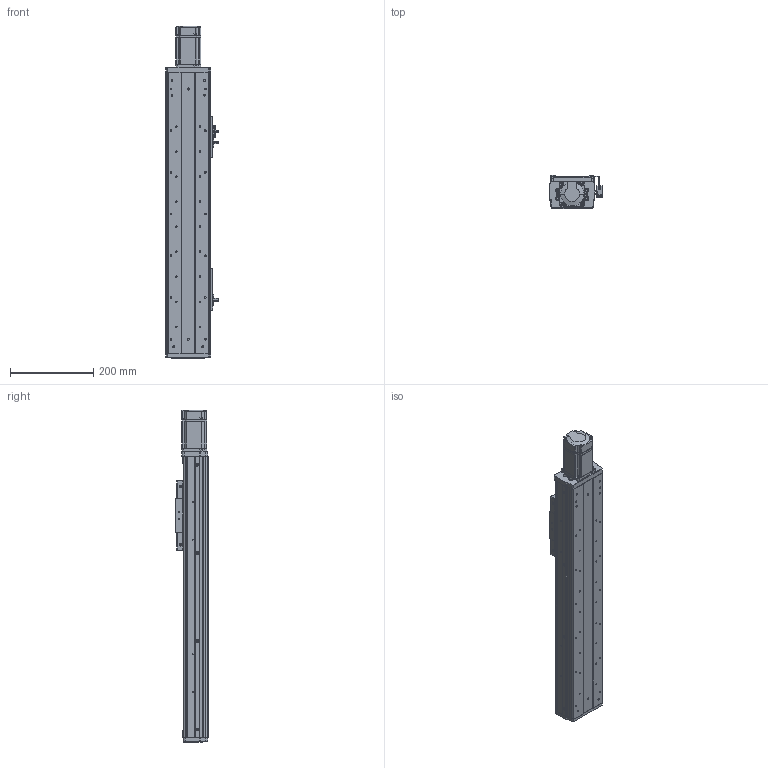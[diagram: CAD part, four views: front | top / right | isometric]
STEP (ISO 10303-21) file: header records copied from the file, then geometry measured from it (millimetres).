
FILE_DESCRIPTION (( 'STEP AP203' ), '1' );
FILE_NAME ('RY100FS-300-MK(15双轨).SLDASM_400.step', '2021-03-02T05:50:43', ( '盈信电脑' ), ( '东莞市道滘镇水果街19号' ), 'SwSTEP 2.0', 'SolidWorks 2012', '' );
FILE_SCHEMA (( 'CONFIG_CONTROL_DESIGN' ));
Length unit declared in the file: millimetre
Products named in the file (20): RY100FS-300-MK(15邧寢).SLDASM_400; 滅袉蝶14-24; RY100FS-15絳寢萇儂假蚾啣(200W PCD70 M4); 滅袉蝶14-35; RY100FS-双轨螺母座(16丝杆）; RY100F-詩湍揤踡輸; 覜茼ん672; RY80俋离覜茼え; 672嫖萇羲壽假蚾釱; RY100F-詩湍揤踡謫; 1; 侂狟200W萇儂; RY100F-綴裔啣; RY100F-詩湍幗謫粣; 棠沺沭; RY100F-滅鳥裔啣; RY100FS-300-MK15絳寢倰第奻裔啣_400; RY100FS-双轨铝滑块(上板）; RY100FS-300-MK15絳寢倰第菁釱_400; RY100FS-300-MK15邧寢祥凄詩湍_400
Assembly tree (27 placements, depth 3):
  RY100FS-300-MK(15邧寢).SLDASM_400
    RY100FS-300-MK15絳寢倰第菁釱_400
    RY100FS-300-MK15絳寢倰第奻裔啣_400  x2
    RY100FS-300-MK15邧寢祥凄詩湍_400
    RY100FS-双轨铝滑块(上板）
    RY100F-滅鳥裔啣
    棠沺沭  x2
    RY100F-詩湍幗謫粣
    RY100F-詩湍揤踡謫  x2
    侂狟200W萇儂
      1
    RY100F-綴裔啣
    672嫖萇羲壽假蚾釱  x2
    RY80俋离覜茼え  x2
    覜茼ん672  x3
    RY100F-詩湍揤踡輸  x2
    RY100FS-15絳寢萇儂假蚾啣(200W PCD70 M4)
    RY100FS-双轨螺母座(16丝杆）
    滅袉蝶14-24
    滅袉蝶14-35
Bounding box: 126.2 x 78.5 x 796 mm (x, y, z)
Volume: 1878792.8 mm3; surface area: 735837.5 mm2
Topology: 26 solids, 26 shells, 1981 faces, 5387 edges, 3500 vertices
Faces by surface type: plane 966, cylinder 854, cone 136, bspline 25
Entity records: 55924 total; most frequent: CARTESIAN_POINT 11364, DIRECTION 8866, ORIENTED_EDGE 8754, EDGE_CURVE 4377, AXIS2_PLACEMENT_3D 3108, VERTEX_POINT 2880, LINE 2650, VECTOR 2650
